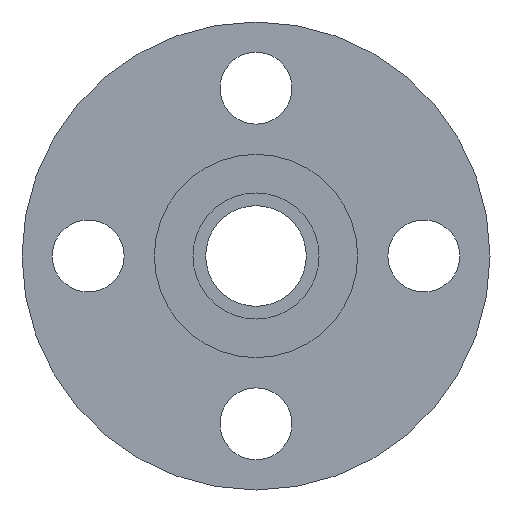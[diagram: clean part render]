
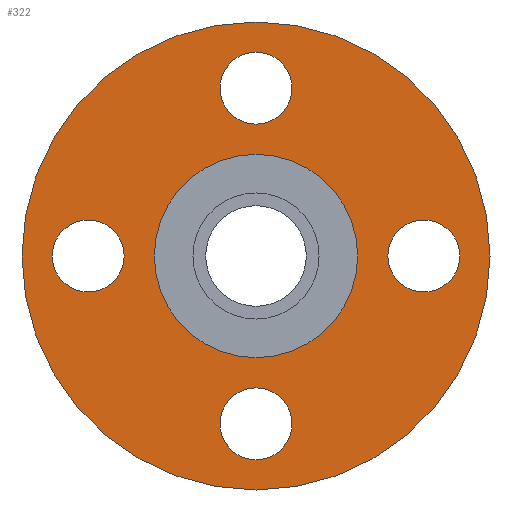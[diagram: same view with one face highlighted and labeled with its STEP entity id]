
A CAD part, left-side view. The second image highlights one B-rep face of the part: STEP entity #322.
In plain terms, the highlighted planar face has unit normal (-1, 0, 0).
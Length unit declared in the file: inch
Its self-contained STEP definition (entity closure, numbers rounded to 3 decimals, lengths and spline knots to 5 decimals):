
#14=FACE_BOUND('',#56,.T.);
#15=FACE_BOUND('',#57,.T.);
#16=FACE_BOUND('',#58,.T.);
#17=FACE_BOUND('',#59,.T.);
#18=FACE_BOUND('',#60,.T.);
#28=PLANE('',#370);
#39=FACE_OUTER_BOUND('',#55,.T.);
#55=EDGE_LOOP('',(#228,#229));
#56=EDGE_LOOP('',(#230));
#57=EDGE_LOOP('',(#231));
#58=EDGE_LOOP('',(#232));
#59=EDGE_LOOP('',(#233));
#60=EDGE_LOOP('',(#234,#235));
#101=CIRCLE('',#355,0.375);
#103=CIRCLE('',#358,0.375);
#105=CIRCLE('',#361,0.375);
#107=CIRCLE('',#364,0.375);
#108=CIRCLE('',#366,2.44);
#109=CIRCLE('',#367,2.44);
#112=CIRCLE('',#371,1.06);
#113=CIRCLE('',#372,1.06);
#133=VERTEX_POINT('',#513);
#135=VERTEX_POINT('',#519);
#137=VERTEX_POINT('',#525);
#139=VERTEX_POINT('',#531);
#140=VERTEX_POINT('',#535);
#141=VERTEX_POINT('',#536);
#144=VERTEX_POINT('',#545);
#145=VERTEX_POINT('',#546);
#166=EDGE_CURVE('',#133,#133,#101,.T.);
#169=EDGE_CURVE('',#135,#135,#103,.T.);
#172=EDGE_CURVE('',#137,#137,#105,.T.);
#175=EDGE_CURVE('',#139,#139,#107,.T.);
#176=EDGE_CURVE('',#140,#141,#108,.T.);
#177=EDGE_CURVE('',#141,#140,#109,.T.);
#181=EDGE_CURVE('',#144,#145,#112,.T.);
#182=EDGE_CURVE('',#145,#144,#113,.T.);
#228=ORIENTED_EDGE('',*,*,#176,.T.);
#229=ORIENTED_EDGE('',*,*,#177,.T.);
#230=ORIENTED_EDGE('',*,*,#166,.T.);
#231=ORIENTED_EDGE('',*,*,#169,.T.);
#232=ORIENTED_EDGE('',*,*,#172,.T.);
#233=ORIENTED_EDGE('',*,*,#175,.T.);
#234=ORIENTED_EDGE('',*,*,#181,.F.);
#235=ORIENTED_EDGE('',*,*,#182,.F.);
#322=ADVANCED_FACE('',(#39,#14,#15,#16,#17,#18),#28,.T.);
#355=AXIS2_PLACEMENT_3D('',#515,#408,#409);
#358=AXIS2_PLACEMENT_3D('',#521,#415,#416);
#361=AXIS2_PLACEMENT_3D('',#527,#422,#423);
#364=AXIS2_PLACEMENT_3D('',#533,#429,#430);
#366=AXIS2_PLACEMENT_3D('',#537,#433,#434);
#367=AXIS2_PLACEMENT_3D('',#538,#435,#436);
#370=AXIS2_PLACEMENT_3D('',#544,#442,#443);
#371=AXIS2_PLACEMENT_3D('',#547,#444,#445);
#372=AXIS2_PLACEMENT_3D('',#548,#446,#447);
#408=DIRECTION('center_axis',(1.,0.,0.));
#409=DIRECTION('ref_axis',(0.,-1.,0.));
#415=DIRECTION('center_axis',(1.,0.,0.));
#416=DIRECTION('ref_axis',(0.,0.,-1.));
#422=DIRECTION('center_axis',(1.,0.,0.));
#423=DIRECTION('ref_axis',(0.,1.,0.));
#429=DIRECTION('center_axis',(1.,0.,0.));
#430=DIRECTION('ref_axis',(0.,0.,1.));
#433=DIRECTION('center_axis',(-1.,0.,0.));
#434=DIRECTION('ref_axis',(0.,0.,1.));
#435=DIRECTION('center_axis',(-1.,0.,0.));
#436=DIRECTION('ref_axis',(0.,0.,1.));
#442=DIRECTION('center_axis',(-1.,0.,0.));
#443=DIRECTION('ref_axis',(0.,0.,1.));
#444=DIRECTION('center_axis',(-1.,0.,0.));
#445=DIRECTION('ref_axis',(0.,0.,1.));
#446=DIRECTION('center_axis',(-1.,0.,0.));
#447=DIRECTION('ref_axis',(0.,0.,1.));
#513=CARTESIAN_POINT('',(-0.69,2.125,0.));
#515=CARTESIAN_POINT('Origin',(-0.69,1.75,0.));
#519=CARTESIAN_POINT('',(-0.69,0.,2.125));
#521=CARTESIAN_POINT('Origin',(-0.69,0.,1.75));
#525=CARTESIAN_POINT('',(-0.69,-2.125,0.));
#527=CARTESIAN_POINT('Origin',(-0.69,-1.75,0.));
#531=CARTESIAN_POINT('',(-0.69,0.,-2.125));
#533=CARTESIAN_POINT('Origin',(-0.69,0.,-1.75));
#535=CARTESIAN_POINT('',(-0.69,0.,2.44));
#536=CARTESIAN_POINT('',(-0.69,0.,-2.44));
#537=CARTESIAN_POINT('Origin',(-0.69,0.,0.));
#538=CARTESIAN_POINT('Origin',(-0.69,0.,0.));
#544=CARTESIAN_POINT('Origin',(-0.69,0.,1.75));
#545=CARTESIAN_POINT('',(-0.69,0.,1.06));
#546=CARTESIAN_POINT('',(-0.69,0.,-1.06));
#547=CARTESIAN_POINT('Origin',(-0.69,0.,0.));
#548=CARTESIAN_POINT('Origin',(-0.69,0.,0.));
